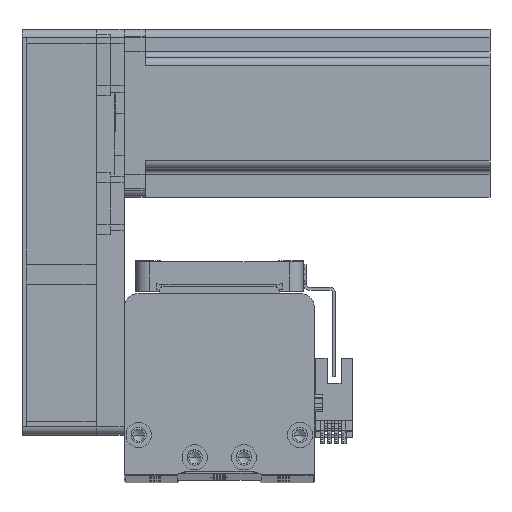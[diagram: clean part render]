
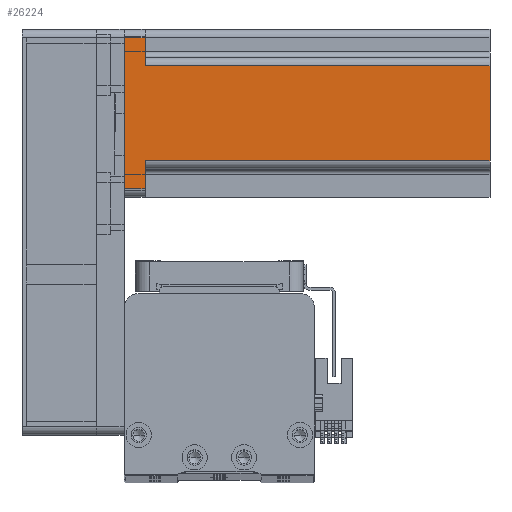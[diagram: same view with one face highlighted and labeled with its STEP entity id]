
A CAD part, top view. The second image highlights one B-rep face of the part: STEP entity #26224.
In plain terms, the highlighted planar face has unit normal (0, 0, 1) as drawn and (0, 1, 0) by its records, which use the part's own axes.
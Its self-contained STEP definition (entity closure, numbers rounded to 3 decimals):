
#131 = VECTOR ( 'NONE', #32744, 1000. ) ;
#1887 = EDGE_CURVE ( 'NONE', #49734, #51433, #11905, .T. ) ;
#1893 = DIRECTION ( 'NONE',  ( 0., -1., 0. ) ) ;
#2132 = ORIENTED_EDGE ( 'NONE', *, *, #17444, .T. ) ;
#2588 = CARTESIAN_POINT ( 'NONE',  ( 27., 30., 130.7 ) ) ;
#2776 = VERTEX_POINT ( 'NONE', #24709 ) ;
#2895 = CARTESIAN_POINT ( 'NONE',  ( -17., 30., 7.5 ) ) ;
#4143 = ORIENTED_EDGE ( 'NONE', *, *, #47316, .T. ) ;
#5033 = DIRECTION ( 'NONE',  ( 0., 0., -1. ) ) ;
#5365 = VERTEX_POINT ( 'NONE', #33742 ) ;
#5595 = CARTESIAN_POINT ( 'NONE',  ( 30., 30., 0. ) ) ;
#5697 = PLANE ( 'NONE',  #14609 ) ;
#6290 = DIRECTION ( 'NONE',  ( -1., 0., 0. ) ) ;
#6542 = VERTEX_POINT ( 'NONE', #30767 ) ;
#6853 = CARTESIAN_POINT ( 'NONE',  ( -17., 30., 130.7 ) ) ;
#9077 = CARTESIAN_POINT ( 'NONE',  ( 17., 30., 130.7 ) ) ;
#10764 = LINE ( 'NONE', #24476, #131 ) ;
#11905 = LINE ( 'NONE', #14595, #27673 ) ;
#12828 = VECTOR ( 'NONE', #34760, 1000. ) ;
#13759 = DIRECTION ( 'NONE',  ( -1., 0., 0. ) ) ;
#14595 = CARTESIAN_POINT ( 'NONE',  ( 20., 30., 7.5 ) ) ;
#14609 = AXIS2_PLACEMENT_3D ( 'NONE', #25960, #1893, #30020 ) ;
#16333 = FACE_OUTER_BOUND ( 'NONE', #29510, .T. ) ;
#17444 = EDGE_CURVE ( 'NONE', #6542, #2776, #19125, .T. ) ;
#18049 = ORIENTED_EDGE ( 'NONE', *, *, #49408, .F. ) ;
#18219 = EDGE_CURVE ( 'NONE', #39699, #22381, #37226, .T. ) ;
#19125 = LINE ( 'NONE', #20886, #28549 ) ;
#20052 = LINE ( 'NONE', #5595, #50814 ) ;
#20058 = LINE ( 'NONE', #41884, #30752 ) ;
#20886 = CARTESIAN_POINT ( 'NONE',  ( -27., 30., 130.7 ) ) ;
#22381 = VERTEX_POINT ( 'NONE', #48512 ) ;
#24476 = CARTESIAN_POINT ( 'NONE',  ( -20., 30., 7.5 ) ) ;
#24709 = CARTESIAN_POINT ( 'NONE',  ( -27., 30., 7.5 ) ) ;
#25035 = ORIENTED_EDGE ( 'NONE', *, *, #28053, .T. ) ;
#25960 = CARTESIAN_POINT ( 'NONE',  ( 30., 30., 130.7 ) ) ;
#26224 = ADVANCED_FACE ( 'NONE', ( #16333 ), #5697, .F. ) ;
#27673 = VECTOR ( 'NONE', #6290, 1000. ) ;
#28053 = EDGE_CURVE ( 'NONE', #39119, #51433, #28294, .T. ) ;
#28294 = LINE ( 'NONE', #9077, #37722 ) ;
#28549 = VECTOR ( 'NONE', #44965, 1000. ) ;
#29510 = EDGE_LOOP ( 'NONE', ( #45209, #50885, #18049, #25035, #46560, #4143, #34363, #2132 ) ) ;
#29705 = DIRECTION ( 'NONE',  ( -1., 0., 0. ) ) ;
#30020 = DIRECTION ( 'NONE',  ( 1., 0., 0. ) ) ;
#30752 = VECTOR ( 'NONE', #13759, 1000. ) ;
#30767 = CARTESIAN_POINT ( 'NONE',  ( -27., 30., 0. ) ) ;
#31005 = DIRECTION ( 'NONE',  ( 0., 0., 1. ) ) ;
#32744 = DIRECTION ( 'NONE',  ( 1., 0., 0. ) ) ;
#33742 = CARTESIAN_POINT ( 'NONE',  ( 27., 30., 0. ) ) ;
#34363 = ORIENTED_EDGE ( 'NONE', *, *, #34364, .T. ) ;
#34364 = EDGE_CURVE ( 'NONE', #5365, #6542, #20052, .T. ) ;
#34760 = DIRECTION ( 'NONE',  ( 0., 0., -1. ) ) ;
#37226 = LINE ( 'NONE', #6853, #47903 ) ;
#37386 = CARTESIAN_POINT ( 'NONE',  ( 17., 30., 130.7 ) ) ;
#37722 = VECTOR ( 'NONE', #5033, 1000. ) ;
#38474 = EDGE_CURVE ( 'NONE', #2776, #39699, #10764, .T. ) ;
#39119 = VERTEX_POINT ( 'NONE', #37386 ) ;
#39699 = VERTEX_POINT ( 'NONE', #2895 ) ;
#40062 = CARTESIAN_POINT ( 'NONE',  ( 27., 30., 7.5 ) ) ;
#41884 = CARTESIAN_POINT ( 'NONE',  ( 30., 30., 130.7 ) ) ;
#43818 = CARTESIAN_POINT ( 'NONE',  ( 17., 30., 7.5 ) ) ;
#44910 = LINE ( 'NONE', #2588, #12828 ) ;
#44965 = DIRECTION ( 'NONE',  ( 0., 0., 1. ) ) ;
#45209 = ORIENTED_EDGE ( 'NONE', *, *, #38474, .T. ) ;
#46560 = ORIENTED_EDGE ( 'NONE', *, *, #1887, .F. ) ;
#47316 = EDGE_CURVE ( 'NONE', #49734, #5365, #44910, .T. ) ;
#47903 = VECTOR ( 'NONE', #31005, 1000. ) ;
#48512 = CARTESIAN_POINT ( 'NONE',  ( -17., 30., 130.7 ) ) ;
#49408 = EDGE_CURVE ( 'NONE', #39119, #22381, #20058, .T. ) ;
#49734 = VERTEX_POINT ( 'NONE', #40062 ) ;
#50814 = VECTOR ( 'NONE', #29705, 1000. ) ;
#50885 = ORIENTED_EDGE ( 'NONE', *, *, #18219, .T. ) ;
#51433 = VERTEX_POINT ( 'NONE', #43818 ) ;
